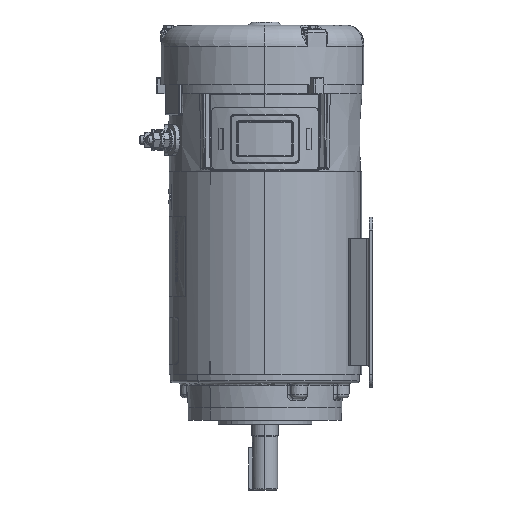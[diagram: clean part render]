
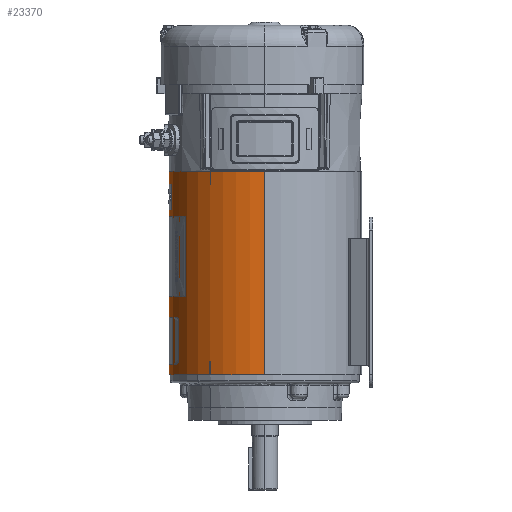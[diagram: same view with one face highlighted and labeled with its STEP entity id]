
A CAD part, left-side view. The second image highlights one B-rep face of the part: STEP entity #23370.
In plain terms, the highlighted cylindrical face has radius 71.438 mm (diameter 142.875 mm), a partial arc.
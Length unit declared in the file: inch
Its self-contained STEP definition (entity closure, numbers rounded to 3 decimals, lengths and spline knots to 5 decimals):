
#804 = CARTESIAN_POINT ( 'NONE',  ( 2.8125, 0., 9.4058 ) ) ;
#838 = DIRECTION ( 'NONE',  ( -1., 0., 0. ) ) ;
#1215 = VERTEX_POINT ( 'NONE', #49278 ) ;
#1344 = DIRECTION ( 'NONE',  ( 0., 0., -1. ) ) ;
#1604 = EDGE_CURVE ( 'NONE', #1215, #2902, #127452, .T. ) ;
#2385 = VERTEX_POINT ( 'NONE', #150027 ) ;
#2637 = CARTESIAN_POINT ( 'NONE',  ( -2.3073, 1.60827, 9.4058 ) ) ;
#2902 = VERTEX_POINT ( 'NONE', #93189 ) ;
#9638 = VECTOR ( 'NONE', #61191, 39.37008 ) ;
#11959 = CARTESIAN_POINT ( 'NONE',  ( 2.8125, 0., 9.3608 ) ) ;
#12808 = EDGE_LOOP ( 'NONE', ( #161986, #113758, #147706, #105191, #142167, #41397, #109392, #152422, #20956, #118216, #162434, #43055 ) ) ;
#13749 = CARTESIAN_POINT ( 'NONE',  ( -2.8125, 0., 3.3908 ) ) ;
#14804 = DIRECTION ( 'NONE',  ( 0., 0., -1. ) ) ;
#15593 = AXIS2_PLACEMENT_3D ( 'NONE', #157922, #156848, #144215 ) ;
#18473 = LINE ( 'NONE', #2637, #36121 ) ;
#20406 = EDGE_CURVE ( 'NONE', #1215, #60700, #126067, .T. ) ;
#20956 = ORIENTED_EDGE ( 'NONE', *, *, #143398, .T. ) ;
#21390 = VERTEX_POINT ( 'NONE', #57821 ) ;
#23184 = DIRECTION ( 'NONE',  ( -0.819, 0.574, 0. ) ) ;
#23211 = VERTEX_POINT ( 'NONE', #98038 ) ;
#23370 = ADVANCED_FACE ( 'NONE', ( #103803 ), #156999, .T. ) ;
#25440 = AXIS2_PLACEMENT_3D ( 'NONE', #55833, #158118, #157019 ) ;
#27367 = DIRECTION ( 'NONE',  ( 0., 0., -1. ) ) ;
#27791 = VERTEX_POINT ( 'NONE', #95155 ) ;
#28273 = CIRCLE ( 'NONE', #25440, 2.8125 ) ;
#28410 = DIRECTION ( 'NONE',  ( 0., 0., -1. ) ) ;
#30277 = LINE ( 'NONE', #159137, #146425 ) ;
#32775 = EDGE_CURVE ( 'NONE', #27791, #60700, #30277, .T. ) ;
#33454 = EDGE_CURVE ( 'NONE', #91909, #23211, #18473, .T. ) ;
#34046 = CARTESIAN_POINT ( 'NONE',  ( 2.8125, 0., 3.3908 ) ) ;
#36121 = VECTOR ( 'NONE', #27367, 39.37008 ) ;
#37790 = EDGE_CURVE ( 'NONE', #118909, #21390, #149285, .T. ) ;
#40048 = CARTESIAN_POINT ( 'NONE',  ( -2.30501, 1.61155, 3.7858 ) ) ;
#41072 = CARTESIAN_POINT ( 'NONE',  ( -2.3073, 1.60827, 9.3608 ) ) ;
#41397 = ORIENTED_EDGE ( 'NONE', *, *, #1604, .T. ) ;
#43055 = ORIENTED_EDGE ( 'NONE', *, *, #37790, .T. ) ;
#49278 = CARTESIAN_POINT ( 'NONE',  ( -2.30501, 1.61155, 3.7858 ) ) ;
#49334 = VERTEX_POINT ( 'NONE', #11959 ) ;
#49588 = EDGE_CURVE ( 'NONE', #49334, #127153, #123638, .T. ) ;
#53438 = EDGE_CURVE ( 'NONE', #2385, #133982, #95794, .T. ) ;
#54781 = DIRECTION ( 'NONE',  ( 1., 0., 0. ) ) ;
#55833 = CARTESIAN_POINT ( 'NONE',  ( 0., 0., 8.9658 ) ) ;
#57821 = CARTESIAN_POINT ( 'NONE',  ( -2.30501, 1.61155, 9.3608 ) ) ;
#60700 = VERTEX_POINT ( 'NONE', #72914 ) ;
#61191 = DIRECTION ( 'NONE',  ( 0., 0., 1. ) ) ;
#62149 = EDGE_CURVE ( 'NONE', #23211, #118909, #28273, .T. ) ;
#64800 = CIRCLE ( 'NONE', #133463, 2.8125 ) ;
#66330 = CARTESIAN_POINT ( 'NONE',  ( 0., 0., 9.3608 ) ) ;
#67976 = DIRECTION ( 'NONE',  ( -1., 0., 0. ) ) ;
#68426 = VECTOR ( 'NONE', #14804, 39.37008 ) ;
#72769 = CARTESIAN_POINT ( 'NONE',  ( -2.8125, 0., 9.4058 ) ) ;
#72914 = CARTESIAN_POINT ( 'NONE',  ( -2.30272, 1.61482, 3.7858 ) ) ;
#75431 = DIRECTION ( 'NONE',  ( 0., 0., -1. ) ) ;
#84385 = DIRECTION ( 'NONE',  ( 0., 0., -1. ) ) ;
#88626 = AXIS2_PLACEMENT_3D ( 'NONE', #114422, #75431, #162857 ) ;
#91909 = VERTEX_POINT ( 'NONE', #41072 ) ;
#93189 = CARTESIAN_POINT ( 'NONE',  ( -2.30501, 1.61155, 3.3908 ) ) ;
#95155 = CARTESIAN_POINT ( 'NONE',  ( -2.30272, 1.61482, 3.3908 ) ) ;
#95794 = LINE ( 'NONE', #72769, #121418 ) ;
#95920 = AXIS2_PLACEMENT_3D ( 'NONE', #138327, #151525, #838 ) ;
#98038 = CARTESIAN_POINT ( 'NONE',  ( -2.3073, 1.60827, 8.9658 ) ) ;
#102019 = CIRCLE ( 'NONE', #95920, 2.8125 ) ;
#103803 = FACE_OUTER_BOUND ( 'NONE', #12808, .T. ) ;
#105191 = ORIENTED_EDGE ( 'NONE', *, *, #32775, .T. ) ;
#109392 = ORIENTED_EDGE ( 'NONE', *, *, #133223, .T. ) ;
#113255 = DIRECTION ( 'NONE',  ( 0., 0., -1. ) ) ;
#113536 = CIRCLE ( 'NONE', #15593, 2.8125 ) ;
#113758 = ORIENTED_EDGE ( 'NONE', *, *, #49588, .T. ) ;
#114422 = CARTESIAN_POINT ( 'NONE',  ( 0., 0., 9.4058 ) ) ;
#117508 = CARTESIAN_POINT ( 'NONE',  ( 0., 0., 3.3908 ) ) ;
#118216 = ORIENTED_EDGE ( 'NONE', *, *, #33454, .T. ) ;
#118333 = EDGE_CURVE ( 'NONE', #21390, #49334, #102019, .T. ) ;
#118909 = VERTEX_POINT ( 'NONE', #153864 ) ;
#120001 = AXIS2_PLACEMENT_3D ( 'NONE', #138032, #113255, #23184 ) ;
#121418 = VECTOR ( 'NONE', #84385, 39.37008 ) ;
#123638 = LINE ( 'NONE', #804, #145214 ) ;
#123941 = CARTESIAN_POINT ( 'NONE',  ( -2.30501, 1.61155, 8.9658 ) ) ;
#124102 = CIRCLE ( 'NONE', #131248, 2.8125 ) ;
#126067 = CIRCLE ( 'NONE', #120001, 2.8125 ) ;
#127153 = VERTEX_POINT ( 'NONE', #34046 ) ;
#127452 = LINE ( 'NONE', #40048, #68426 ) ;
#130158 = DIRECTION ( 'NONE',  ( 0., 0., 1. ) ) ;
#131248 = AXIS2_PLACEMENT_3D ( 'NONE', #117508, #130158, #54781 ) ;
#131694 = DIRECTION ( 'NONE',  ( 0., 0., 1. ) ) ;
#133223 = EDGE_CURVE ( 'NONE', #2902, #133982, #124102, .T. ) ;
#133463 = AXIS2_PLACEMENT_3D ( 'NONE', #66330, #28410, #67976 ) ;
#133982 = VERTEX_POINT ( 'NONE', #13749 ) ;
#135743 = EDGE_CURVE ( 'NONE', #127153, #27791, #113536, .T. ) ;
#138032 = CARTESIAN_POINT ( 'NONE',  ( 0., 0., 3.7858 ) ) ;
#138327 = CARTESIAN_POINT ( 'NONE',  ( 0., 0., 9.3608 ) ) ;
#142167 = ORIENTED_EDGE ( 'NONE', *, *, #20406, .F. ) ;
#143398 = EDGE_CURVE ( 'NONE', #2385, #91909, #64800, .T. ) ;
#144215 = DIRECTION ( 'NONE',  ( 1., 0., 0. ) ) ;
#145214 = VECTOR ( 'NONE', #1344, 39.37008 ) ;
#146425 = VECTOR ( 'NONE', #131694, 39.37008 ) ;
#147706 = ORIENTED_EDGE ( 'NONE', *, *, #135743, .T. ) ;
#149285 = LINE ( 'NONE', #123941, #9638 ) ;
#150027 = CARTESIAN_POINT ( 'NONE',  ( -2.8125, 0., 9.3608 ) ) ;
#151525 = DIRECTION ( 'NONE',  ( 0., 0., -1. ) ) ;
#152422 = ORIENTED_EDGE ( 'NONE', *, *, #53438, .F. ) ;
#153864 = CARTESIAN_POINT ( 'NONE',  ( -2.30501, 1.61155, 8.9658 ) ) ;
#156848 = DIRECTION ( 'NONE',  ( 0., 0., 1. ) ) ;
#156999 = CYLINDRICAL_SURFACE ( 'NONE', #88626, 2.8125 ) ;
#157019 = DIRECTION ( 'NONE',  ( -0.82, 0.573, 0. ) ) ;
#157922 = CARTESIAN_POINT ( 'NONE',  ( 0., 0., 3.3908 ) ) ;
#158118 = DIRECTION ( 'NONE',  ( 0., 0., -1. ) ) ;
#159137 = CARTESIAN_POINT ( 'NONE',  ( -2.30272, 1.61482, 3.3458 ) ) ;
#161986 = ORIENTED_EDGE ( 'NONE', *, *, #118333, .T. ) ;
#162434 = ORIENTED_EDGE ( 'NONE', *, *, #62149, .T. ) ;
#162857 = DIRECTION ( 'NONE',  ( -1., 0., 0. ) ) ;
